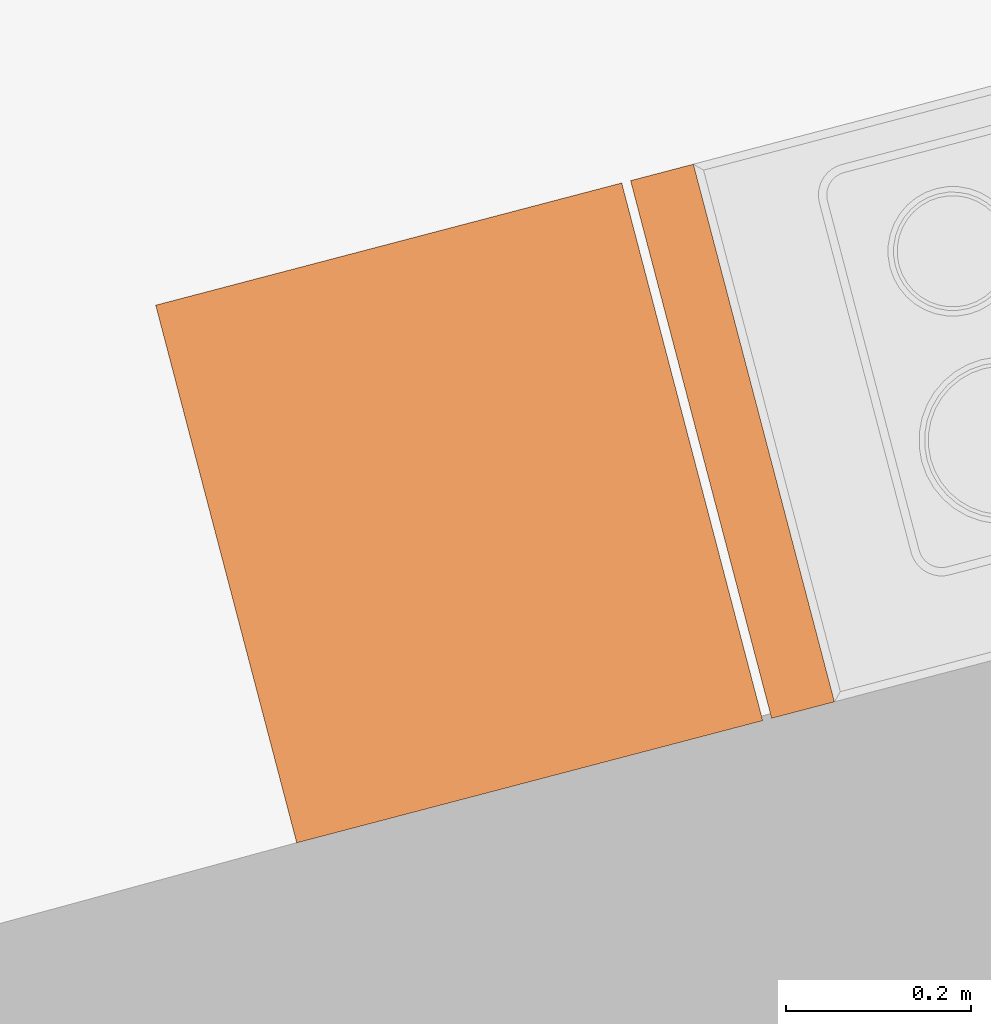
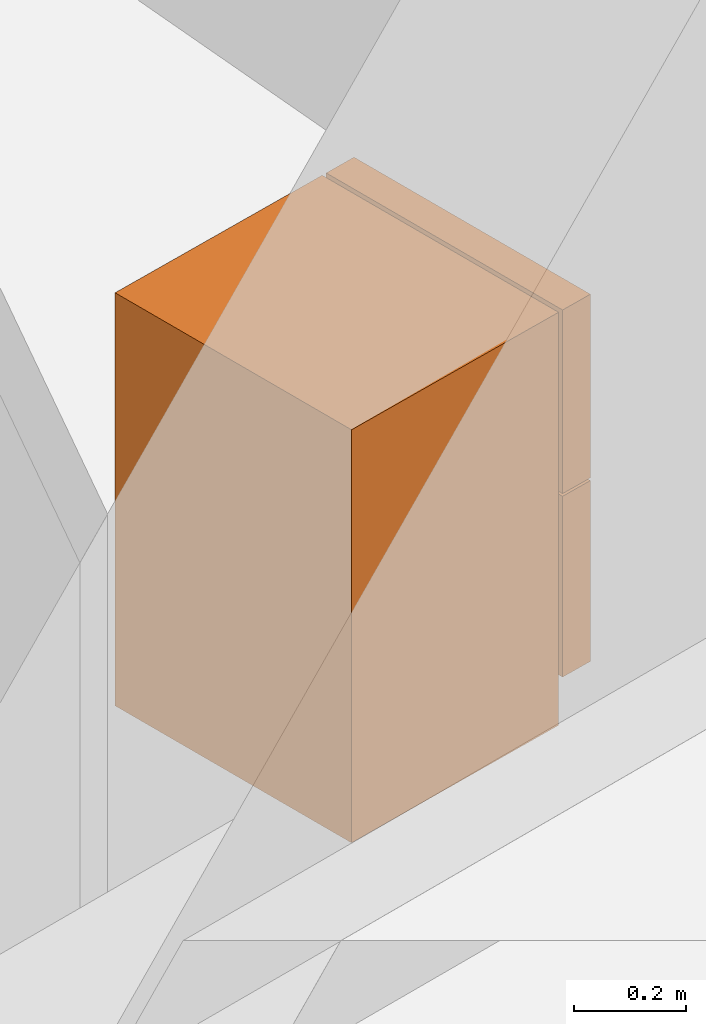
# One storey, part 119 of 121: 1 proxy.
"""IFC2X3 building model written with IfcOpenShell, lengths in metres."""

from ifc_helpers import new_model, entity, si_unit, converted_unit, derived_unit, money_unit, direction, frame, origin_with_axes, place, context, subcontext, project, spatial, open_shell, faceted_brep, surface_model, source, transform, mapped, type_object, element, save


model = new_model("IFC2X3")

# Units and contexts
model_context = context("Model", 3, precision=1e-05, world=origin_with_axes(), true_north=direction((0.0, 1.0)))
body_context = subcontext(model_context, "Body", "Model", "MODEL_VIEW")
ifc_project = project(units=[si_unit("LENGTHUNIT", "METRE"), si_unit("AREAUNIT", "SQUARE_METRE"), si_unit("VOLUMEUNIT", "CUBIC_METRE"), converted_unit("PLANEANGLEUNIT", "DEGREE", entity("IfcPlaneAngleMeasure", 0.0174532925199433), si_unit("PLANEANGLEUNIT", "RADIAN"), dimensions=[0, 0, 0, 0, 0, 0, 0]), money_unit("CHF"), converted_unit("TIMEUNIT", "Year", entity("IfcTimeMeasure", 31557600.0), si_unit("TIMEUNIT", "SECOND"), dimensions=[0, 0, 1, 0, 0, 0, 0]), si_unit("MASSUNIT", "GRAM", prefix="KILO"), si_unit("THERMODYNAMICTEMPERATUREUNIT", "DEGREE_CELSIUS"), si_unit("LUMINOUSINTENSITYUNIT", "LUMEN"), si_unit("ENERGYUNIT", "JOULE", prefix="MEGA"), derived_unit("THERMALCONDUCTANCEUNIT", [(si_unit("POWERUNIT", "WATT"), 1), (si_unit("LENGTHUNIT", "METRE"), -1), (si_unit("THERMODYNAMICTEMPERATUREUNIT", "KELVIN"), -1)]), derived_unit("SPECIFICHEATCAPACITYUNIT", [(si_unit("ENERGYUNIT", "JOULE"), 1), (si_unit("MASSUNIT", "GRAM", prefix="KILO"), -1), (si_unit("THERMODYNAMICTEMPERATUREUNIT", "KELVIN"), -1)]), derived_unit("MASSDENSITYUNIT", [(si_unit("MASSUNIT", "GRAM", prefix="KILO"), 1), (si_unit("VOLUMEUNIT", "CUBIC_METRE"), -1)])], contexts=[model_context])

# Site, building, storey
site_placement = place(None, origin_with_axes())
site = spatial("IfcSite", under=ifc_project, at=site_placement, Name="Site", CompositionType="ELEMENT")
building_placement = place(site_placement, origin_with_axes())
building = spatial("IfcBuilding", under=site, at=building_placement, Name="Bâtiment", CompositionType="ELEMENT")
storey_placement = place(building_placement, frame((0.0, 0.0, 2.75), z_axis=(0.0, 0.0, 1.0), x_axis=(1.0, 0.0, 0.0)))
storey = spatial("IfcBuildingStorey", under=building, at=storey_placement, Name="Etage 1", CompositionType="ELEMENT", Elevation=2.75)

# Proxy
building_element_proxy_type = type_object("IfcBuildingElementProxyType", PredefinedType="NOTDEFINED")
shared_shape = source(origin_with_axes(), body_context, "Body", "SurfaceModel", [
    faceted_brep([(0.0, 0.08, 0.1), (0.6, 0.08, 0.1), (0.6, 0.08, 0.9), (0.0, 0.08, 0.9), (0.0, 0.6, 0.1), (0.6, 0.6, 0.1), (0.6, 0.6, 0.9), (0.0, 0.6, 0.9)], [[[0, 1, 2, 3]], [[0, 4, 5, 1]], [[1, 5, 6, 2]], [[3, 2, 6, 7]], [[4, 0, 3, 7]], [[5, 4, 7, 6]]]),
    faceted_brep([(0.0, 0.08, 0.0), (0.6, 0.08, 0.0), (0.6, 0.08, 0.1), (0.0, 0.08, 0.1), (0.0, 0.6, 0.0), (0.6, 0.6, 0.0), (0.6, 0.6, 0.1), (0.0, 0.6, 0.1)], [[[0, 1, 2, 3]], [[0, 4, 5, 1]], [[1, 5, 6, 2]], [[3, 2, 6, 7]], [[4, 0, 3, 7]], [[5, 4, 7, 6]]]),
    faceted_brep([(0.0, 0.07, 0.1), (0.6, 0.07, 0.1), (0.6, 0.0, 0.1), (0.0, 0.0, 0.1), (0.0, 0.07000000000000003, 0.494), (0.6, 0.07000000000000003, 0.494), (0.6, 0.0, 0.494), (0.0, 0.0, 0.494)], [[[0, 1, 2, 3]], [[0, 4, 5, 1]], [[1, 5, 6, 2]], [[3, 2, 6, 7]], [[4, 0, 3, 7]], [[5, 4, 7, 6]]]),
    faceted_brep([(0.0, 0.07, 0.5), (0.6, 0.07, 0.5), (0.6, 0.0, 0.5), (0.0, 0.0, 0.5), (0.0, 0.07000000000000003, 0.9), (0.6, 0.07000000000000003, 0.9), (0.6, 0.0, 0.9), (0.0, 0.0, 0.9)], [[[0, 1, 2, 3]], [[0, 4, 5, 1]], [[1, 5, 6, 2]], [[3, 2, 6, 7]], [[4, 0, 3, 7]], [[5, 4, 7, 6]]]),
    surface_model("IfcShellBasedSurfaceModel", [(0.6, -0.03, 0.3), (0.6, -0.03, 0.4940000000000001), (0.6, 0.0, 0.4940000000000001), (0.6, 0.0, 0.3)], [open_shell([[[0, 1, 2, 3]]])]),
    surface_model("IfcShellBasedSurfaceModel", [(0.6, -0.03, 0.3), (0.6, -0.03, 0.4940000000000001), (0.57, -0.03, 0.4940000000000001), (0.57, -0.03, 0.3)], [open_shell([[[0, 1, 2, 3]]])]),
    surface_model("IfcShellBasedSurfaceModel", [(0.6, -0.03, 0.5), (0.6, -0.03, 0.7), (0.6, 0.0, 0.7), (0.6, 0.0, 0.5)], [open_shell([[[0, 1, 2, 3]]])]),
    surface_model("IfcShellBasedSurfaceModel", [(0.6, -0.03, 0.5), (0.6, -0.03, 0.7), (0.57, -0.03, 0.7), (0.57, -0.03, 0.5)], [open_shell([[[0, 1, 2, 3]]])]),
])
proxy_placement = place(storey_placement, frame((9588.394744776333, -1033.484645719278, 57.49999999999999), z_axis=(0.0, 0.0, 1.0), x_axis=(-0.2537210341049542, 0.9672774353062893, 0.0)))
element("IfcBuildingElementProxy", 1, at=proxy_placement, inside=storey, type_object=building_element_proxy_type, Name="Obj.-019", context=body_context, shape_type="MappedRepresentation", body=[
    mapped(shared_shape, transform((0.0, 0.0, 0.0))),
])

save(model, "model.ifc")
